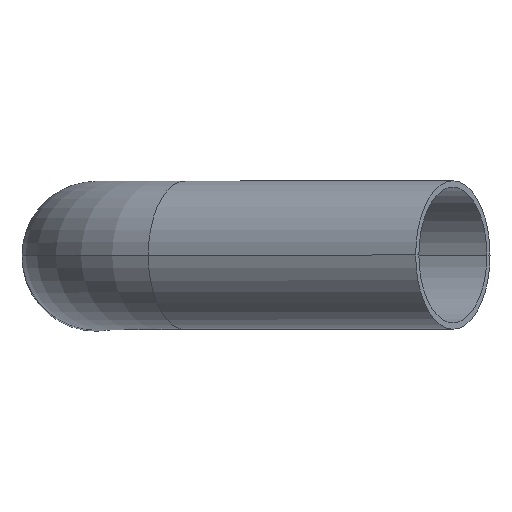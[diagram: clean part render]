
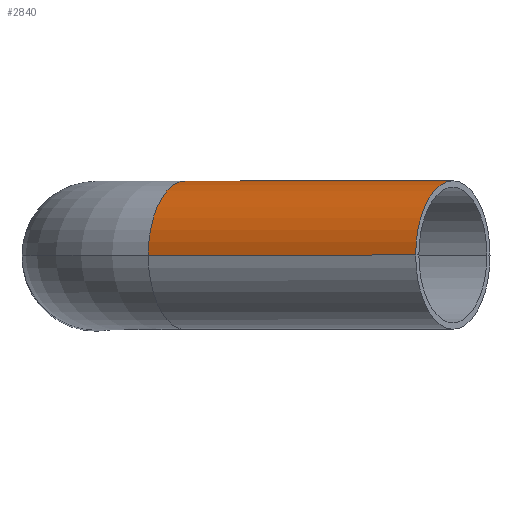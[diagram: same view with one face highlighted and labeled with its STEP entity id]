
A CAD part, top view. The second image highlights one B-rep face of the part: STEP entity #2840.
In plain terms, the highlighted cylindrical face has radius 17.5 mm (diameter 35 mm), a partial arc.
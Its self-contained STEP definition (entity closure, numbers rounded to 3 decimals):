
#1880=CARTESIAN_POINT('',(80.467,48.566,199.969));
#1890=VERTEX_POINT('',#1880);
#1980=CARTESIAN_POINT('',(62.967,48.566,230.28));
#1990=VERTEX_POINT('',#1980);
#2020=CARTESIAN_POINT('',(71.717,48.566,215.124));
#2030=DIRECTION('',(0.866,0.,0.5));
#2040=DIRECTION('',(0.5,0.,-0.866));
#2050=AXIS2_PLACEMENT_3D('',#2020,#2030,#2040);
#2060=CIRCLE('',#2050,17.5);
#2140=EDGE_CURVE('',#1890,#1990,#2060,.T.);
#2400=CARTESIAN_POINT('',(134.722,48.566,251.5));
#2410=DIRECTION('',(0.866,0.,0.5));
#2420=DIRECTION('',(0.5,0.,-0.866));
#2430=AXIS2_PLACEMENT_3D('',#2400,#2410,#2420);
#2440=CIRCLE('',#2430,17.5);
#2450=CARTESIAN_POINT('',(143.472,48.566,236.345));
#2460=VERTEX_POINT('',#2450);
#2470=CARTESIAN_POINT('',(125.972,48.566,266.655));
#2480=VERTEX_POINT('',#2470);
#2490=EDGE_CURVE('',#2460,#2480,#2440,.T.);
#2560=CARTESIAN_POINT('',(71.717,48.566,215.124));
#2570=DIRECTION('',(0.866,0.,0.5));
#2580=DIRECTION('',(0.5,0.,-0.866));
#2590=AXIS2_PLACEMENT_3D('',#2560,#2570,#2580);
#2600=CYLINDRICAL_SURFACE('',#2590,17.5);
#2610=CARTESIAN_POINT('',(80.467,48.566,199.969));
#2620=DIRECTION('',(0.866,0.,0.5));
#2630=VECTOR('',#2620,1.);
#2640=LINE('',#2610,#2630);
#2650=EDGE_CURVE('',#1890,#2460,#2640,.T.);
#2680=CARTESIAN_POINT('',(62.967,48.566,230.28));
#2690=DIRECTION('',(0.866,0.,0.5));
#2700=VECTOR('',#2690,1.);
#2710=LINE('',#2680,#2700);
#2720=EDGE_CURVE('',#1990,#2480,#2710,.T.);
#2780=ORIENTED_EDGE('',*,*,#2490,.F.);
#2790=ORIENTED_EDGE('',*,*,#2720,.T.);
#2800=ORIENTED_EDGE('',*,*,#2140,.T.);
#2810=ORIENTED_EDGE('',*,*,#2650,.F.);
#2820=EDGE_LOOP('',(#2810,#2800,#2790,#2780));
#2830=FACE_OUTER_BOUND('',#2820,.T.);
#2840=ADVANCED_FACE('',(#2830),#2600,.T.);
